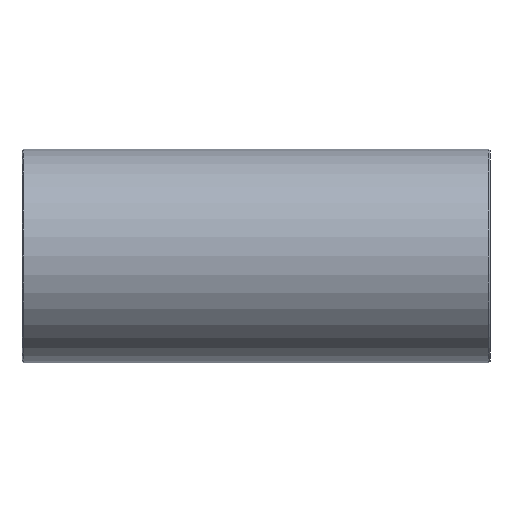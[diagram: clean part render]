
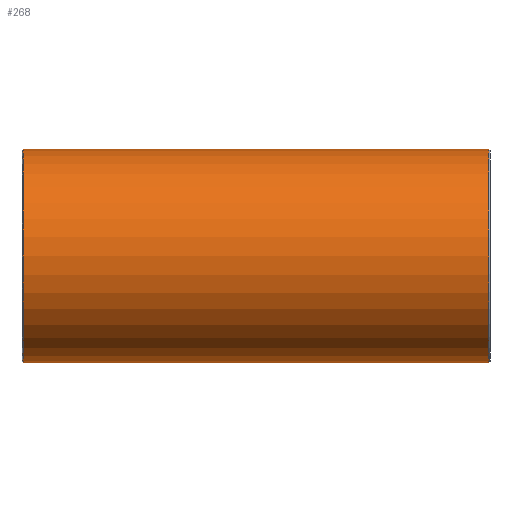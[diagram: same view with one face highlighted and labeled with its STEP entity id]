
A CAD part, front view. The second image highlights one B-rep face of the part: STEP entity #268.
In plain terms, the highlighted cylindrical face has radius 19.85 mm (diameter 39.7 mm), a full revolution.
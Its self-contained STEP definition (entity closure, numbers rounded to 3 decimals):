
#121=CARTESIAN_POINT('',(0.0,0.0,19.85));
#122=VERTEX_POINT('',#121);
#123=CARTESIAN_POINT('',(0.0,0.0,-19.85));
#124=VERTEX_POINT('',#123);
#221=CARTESIAN_POINT('',(-43.3,19.85,0.));
#222=VERTEX_POINT('',#221);
#223=CARTESIAN_POINT('',(-43.3,0.0,0.0));
#224=DIRECTION('',(-1.0,0.0,0.0));
#225=DIRECTION('',(0.0,-1.0,0.0));
#226=AXIS2_PLACEMENT_3D('',#223,#224,#225);
#227=CIRCLE('',#226,19.85);
#228=EDGE_CURVE('',#222,#222,#227,.T.);
#233=CARTESIAN_POINT('',(0.0,0.0,0.0));
#234=DIRECTION('',(1.0,0.0,0.0));
#235=DIRECTION('',(0.0,1.0,0.0));
#236=AXIS2_PLACEMENT_3D('',#233,#234,#235);
#237=CYLINDRICAL_SURFACE('',#236,19.85);
#238=CARTESIAN_POINT('',(43.3,19.85,0.));
#239=VERTEX_POINT('',#238);
#240=CARTESIAN_POINT('',(43.3,0.0,0.0));
#241=DIRECTION('',(1.0,0.0,0.0));
#242=DIRECTION('',(0.0,-1.0,0.0));
#243=AXIS2_PLACEMENT_3D('',#240,#241,#242);
#244=CIRCLE('',#243,19.85);
#245=EDGE_CURVE('',#239,#239,#244,.T.);
#246=ORIENTED_EDGE('',*,*,#245,.F.);
#247=EDGE_LOOP('',(#246));
#248=FACE_OUTER_BOUND('',#247,.T.);
#249=CARTESIAN_POINT('',(0.0,0.0,0.0));
#250=DIRECTION('',(-0.632,0.775,0.0));
#251=DIRECTION('',(0.775,0.632,0.0));
#252=AXIS2_PLACEMENT_3D('',#249,#250,#251);
#253=ELLIPSE('',#252,31.416,19.85);
#254=EDGE_CURVE('',#122,#124,#253,.T.);
#255=ORIENTED_EDGE('',*,*,#254,.F.);
#256=CARTESIAN_POINT('',(0.0,0.0,0.0));
#257=DIRECTION('',(0.632,0.775,0.0));
#258=DIRECTION('',(-0.775,0.632,0.0));
#259=AXIS2_PLACEMENT_3D('',#256,#257,#258);
#260=ELLIPSE('',#259,31.416,19.85);
#261=EDGE_CURVE('',#124,#122,#260,.T.);
#262=ORIENTED_EDGE('',*,*,#261,.F.);
#263=EDGE_LOOP('',(#255,#262));
#264=FACE_BOUND('',#263,.T.);
#265=ORIENTED_EDGE('',*,*,#228,.F.);
#266=EDGE_LOOP('',(#265));
#267=FACE_BOUND('',#266,.T.);
#268=ADVANCED_FACE('',(#248,#264,#267),#237,.T.);
